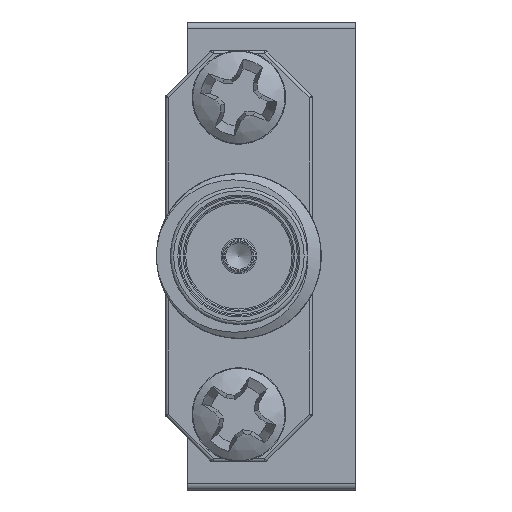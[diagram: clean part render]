
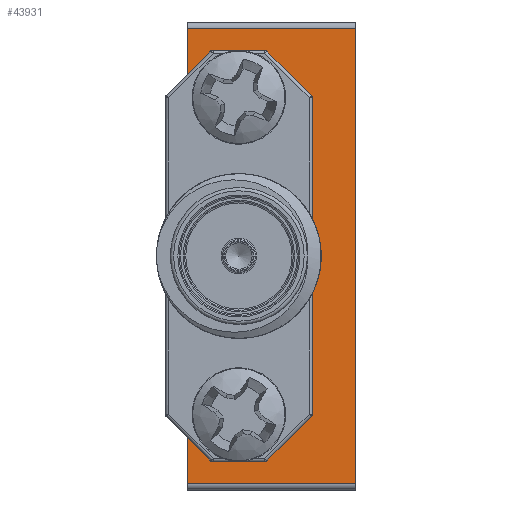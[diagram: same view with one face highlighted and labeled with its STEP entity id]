
A CAD part, left-side view. The second image highlights one B-rep face of the part: STEP entity #43931.
In plain terms, the highlighted planar face has unit normal (-1, 0, 0).
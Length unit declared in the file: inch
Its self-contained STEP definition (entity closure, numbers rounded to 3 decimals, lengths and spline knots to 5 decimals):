
#156 = CARTESIAN_POINT ( 'NONE',  ( -0.537, 0.179, -0.1885 ) ) ;
#624 = VERTEX_POINT ( 'NONE', #156 ) ;
#1011 = DIRECTION ( 'NONE',  ( 0., 1., 0. ) ) ;
#1391 = EDGE_CURVE ( 'NONE', #27174, #10725, #31666, .T. ) ;
#1684 = DIRECTION ( 'NONE',  ( 1., 0., 0. ) ) ;
#2646 = VECTOR ( 'NONE', #21630, 39.37008 ) ;
#3392 = VECTOR ( 'NONE', #1011, 39.37008 ) ;
#4012 = CARTESIAN_POINT ( 'NONE',  ( -0.537, 0.107, 0.182 ) ) ;
#4100 = VECTOR ( 'NONE', #15226, 39.37008 ) ;
#4139 = ORIENTED_EDGE ( 'NONE', *, *, #21119, .T. ) ;
#4632 = LINE ( 'NONE', #18691, #4100 ) ;
#4655 = EDGE_LOOP ( 'NONE', ( #36159, #4139, #43421, #34655, #9120, #40090, #39188, #35628 ) ) ;
#4913 = EDGE_CURVE ( 'NONE', #45508, #9690, #8833, .T. ) ;
#5475 = VERTEX_POINT ( 'NONE', #19754 ) ;
#5630 = CARTESIAN_POINT ( 'NONE',  ( -0.537, 0., 0.345 ) ) ;
#5827 = CARTESIAN_POINT ( 'NONE',  ( -0.537, 0.255, -0.355 ) ) ;
#5970 = CIRCLE ( 'NONE', #40521, 0.0525 ) ;
#6736 = EDGE_CURVE ( 'NONE', #624, #624, #5970, .T. ) ;
#7261 = EDGE_LOOP ( 'NONE', ( #14306 ) ) ;
#7474 = PLANE ( 'NONE',  #39237 ) ;
#7968 = VECTOR ( 'NONE', #13337, 39.37008 ) ;
#8207 = DIRECTION ( 'NONE',  ( 0., -1., 0. ) ) ;
#8504 = CARTESIAN_POINT ( 'NONE',  ( -0.537, 0.255, 0.345 ) ) ;
#8574 = EDGE_CURVE ( 'NONE', #38743, #31249, #22714, .T. ) ;
#8833 = LINE ( 'NONE', #5827, #18469 ) ;
#9120 = ORIENTED_EDGE ( 'NONE', *, *, #22169, .F. ) ;
#9690 = VERTEX_POINT ( 'NONE', #8504 ) ;
#9825 = EDGE_CURVE ( 'NONE', #41447, #45508, #11168, .T. ) ;
#10725 = VERTEX_POINT ( 'NONE', #26540 ) ;
#11168 = LINE ( 'NONE', #4012, #3392 ) ;
#11629 = CARTESIAN_POINT ( 'NONE',  ( -0.537, 0.255, -0.355 ) ) ;
#12090 = EDGE_LOOP ( 'NONE', ( #45450 ) ) ;
#12844 = CIRCLE ( 'NONE', #15837, 0.0525 ) ;
#12994 = EDGE_CURVE ( 'NONE', #31249, #35441, #28894, .T. ) ;
#13083 = VECTOR ( 'NONE', #28238, 39.37008 ) ;
#13337 = DIRECTION ( 'NONE',  ( 0., 1., 0. ) ) ;
#14306 = ORIENTED_EDGE ( 'NONE', *, *, #14945, .F. ) ;
#14945 = EDGE_CURVE ( 'NONE', #5475, #5475, #12844, .T. ) ;
#15226 = DIRECTION ( 'NONE',  ( 0., 0., 1. ) ) ;
#15837 = AXIS2_PLACEMENT_3D ( 'NONE', #17410, #21545, #24283 ) ;
#16603 = VECTOR ( 'NONE', #24091, 39.37008 ) ;
#17211 = LINE ( 'NONE', #34404, #16603 ) ;
#17410 = CARTESIAN_POINT ( 'NONE',  ( -0.537, 0.179, 0.24 ) ) ;
#18069 = EDGE_CURVE ( 'NONE', #38743, #10725, #4632, .T. ) ;
#18410 = DIRECTION ( 'NONE',  ( -1., 0., 0. ) ) ;
#18469 = VECTOR ( 'NONE', #26515, 39.37008 ) ;
#18691 = CARTESIAN_POINT ( 'NONE',  ( -0.537, 0.255, -0.355 ) ) ;
#18995 = DIRECTION ( 'NONE',  ( 0., 0., -1. ) ) ;
#19754 = CARTESIAN_POINT ( 'NONE',  ( -0.537, 0.179, 0.2925 ) ) ;
#20489 = CARTESIAN_POINT ( 'NONE',  ( -0.537, 0.255, 0.345 ) ) ;
#21119 = EDGE_CURVE ( 'NONE', #35441, #9690, #27335, .T. ) ;
#21545 = DIRECTION ( 'NONE',  ( -1., 0., 0. ) ) ;
#21630 = DIRECTION ( 'NONE',  ( 0., 1., 0. ) ) ;
#22169 = EDGE_CURVE ( 'NONE', #27174, #41447, #17211, .T. ) ;
#22414 = VECTOR ( 'NONE', #8207, 39.37008 ) ;
#22714 = LINE ( 'NONE', #42933, #22414 ) ;
#24091 = DIRECTION ( 'NONE',  ( 0., 0., 1. ) ) ;
#24283 = DIRECTION ( 'NONE',  ( 0., 0., 1. ) ) ;
#24487 = FACE_BOUND ( 'NONE', #7261, .T. ) ;
#24904 = CARTESIAN_POINT ( 'NONE',  ( -0.537, 0.255, 0.182 ) ) ;
#24932 = FACE_OUTER_BOUND ( 'NONE', #4655, .T. ) ;
#26515 = DIRECTION ( 'NONE',  ( 0., 0., 1. ) ) ;
#26540 = CARTESIAN_POINT ( 'NONE',  ( -0.537, 0.255, -0.182 ) ) ;
#27174 = VERTEX_POINT ( 'NONE', #41691 ) ;
#27335 = LINE ( 'NONE', #20489, #7968 ) ;
#28238 = DIRECTION ( 'NONE',  ( 0., 0., 1. ) ) ;
#28894 = LINE ( 'NONE', #39535, #13083 ) ;
#28905 = CARTESIAN_POINT ( 'NONE',  ( -0.537, 0.179, -0.241 ) ) ;
#31249 = VERTEX_POINT ( 'NONE', #42995 ) ;
#31666 = LINE ( 'NONE', #39098, #2646 ) ;
#34404 = CARTESIAN_POINT ( 'NONE',  ( -0.537, 0.107, 0.182 ) ) ;
#34655 = ORIENTED_EDGE ( 'NONE', *, *, #9825, .F. ) ;
#35441 = VERTEX_POINT ( 'NONE', #5630 ) ;
#35628 = ORIENTED_EDGE ( 'NONE', *, *, #8574, .T. ) ;
#36159 = ORIENTED_EDGE ( 'NONE', *, *, #12994, .T. ) ;
#36294 = DIRECTION ( 'NONE',  ( 0., 0., 1. ) ) ;
#37317 = CARTESIAN_POINT ( 'NONE',  ( -0.537, 0.255, -0.345 ) ) ;
#38735 = CARTESIAN_POINT ( 'NONE',  ( -0.537, 0.107, 0.182 ) ) ;
#38743 = VERTEX_POINT ( 'NONE', #37317 ) ;
#38988 = FACE_BOUND ( 'NONE', #12090, .T. ) ;
#39098 = CARTESIAN_POINT ( 'NONE',  ( -0.537, 0.107, -0.182 ) ) ;
#39188 = ORIENTED_EDGE ( 'NONE', *, *, #18069, .F. ) ;
#39237 = AXIS2_PLACEMENT_3D ( 'NONE', #11629, #1684, #18995 ) ;
#39535 = CARTESIAN_POINT ( 'NONE',  ( -0.537, 0., -0.355 ) ) ;
#40090 = ORIENTED_EDGE ( 'NONE', *, *, #1391, .T. ) ;
#40521 = AXIS2_PLACEMENT_3D ( 'NONE', #28905, #18410, #36294 ) ;
#41447 = VERTEX_POINT ( 'NONE', #38735 ) ;
#41691 = CARTESIAN_POINT ( 'NONE',  ( -0.537, 0.107, -0.182 ) ) ;
#42933 = CARTESIAN_POINT ( 'NONE',  ( -0.537, 0.255, -0.345 ) ) ;
#42995 = CARTESIAN_POINT ( 'NONE',  ( -0.537, 0., -0.345 ) ) ;
#43421 = ORIENTED_EDGE ( 'NONE', *, *, #4913, .F. ) ;
#43931 = ADVANCED_FACE ( 'NONE', ( #24932, #38988, #24487 ), #7474, .F. ) ;
#45450 = ORIENTED_EDGE ( 'NONE', *, *, #6736, .F. ) ;
#45508 = VERTEX_POINT ( 'NONE', #24904 ) ;
